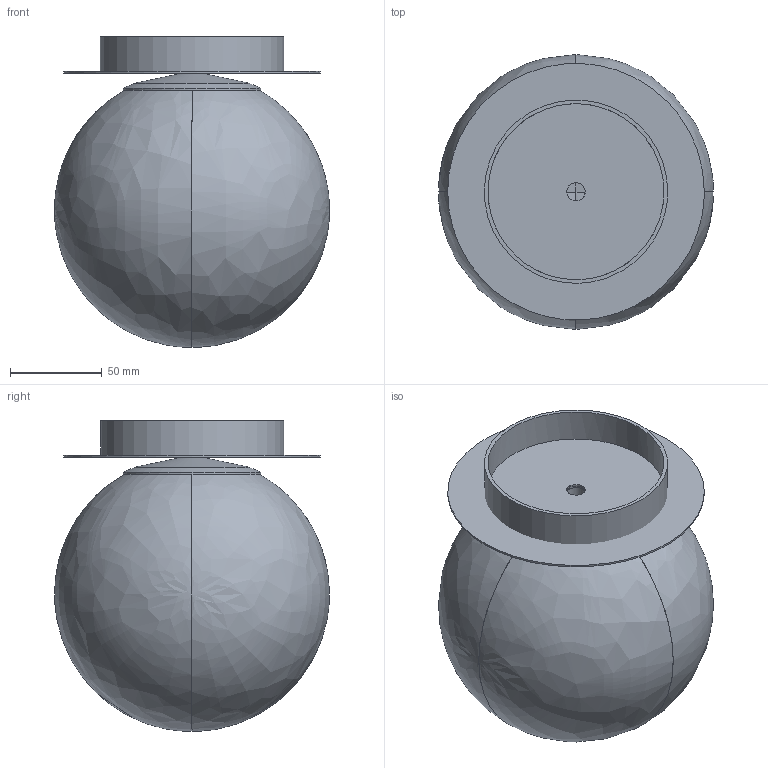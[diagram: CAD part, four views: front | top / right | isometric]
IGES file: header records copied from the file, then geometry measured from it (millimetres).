
Global section: file name: PARMA-A3946080-3D; native system: AutoCAD 2022 - Español (Spanish),; preprocessor: Autodesk Translation Framework DWG producer (atf_dwg_producer); organization: unknown; date: 20221221.101558; units: millimetre
Bounding box: 150 x 150 x 169.62 mm (x, y, z)
Volume: 1592380.5 mm3; surface area: 201948.2 mm2
Topology: 5 solids, 5 shells, 35 faces, 93 edges, 67 vertices
Faces by surface type: bspline 35
